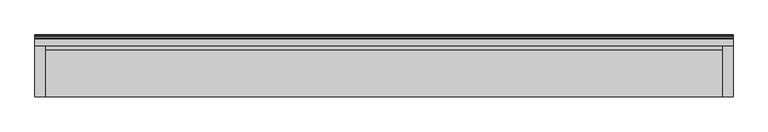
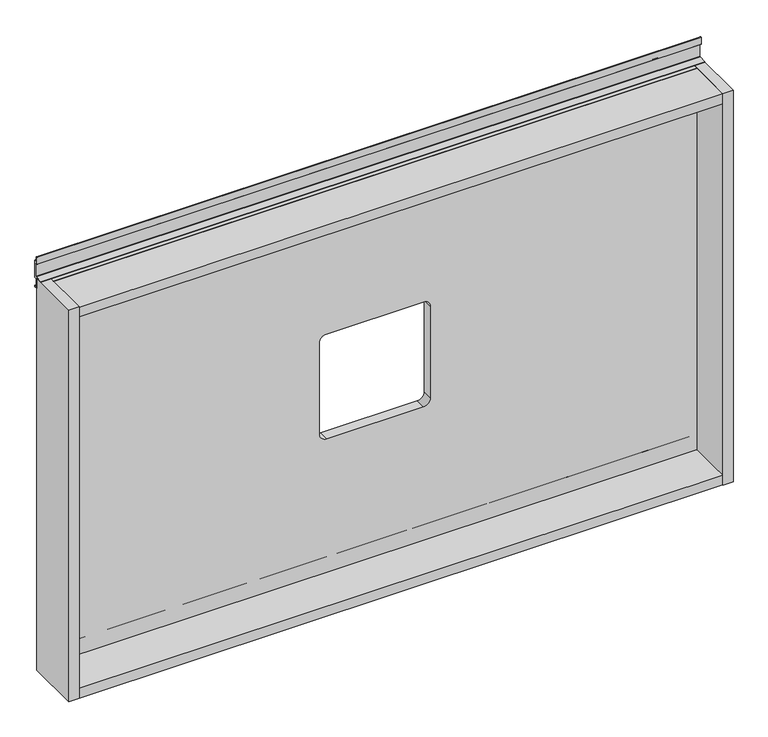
"""IFC4 building model written with IfcOpenShell, lengths in millimetres: furniture geometry, Geiger_GeigerOneCasegoods_WallTVBoxAcceptsShelfandTile : Horizontal Veneer Back 48Wx4.25Dx29.875H."""

import ifcopenshell
import ifcopenshell.guid

model = None  # the IFC model being written
_history = None  # IfcOwnerHistory: only IFC2X3 demands one
_inside = {}  # id of a spatial element -> (the spatial element, [elements in it])
_under = {}  # id of a project, library or spatial element -> (it, [spatial elements below it])
_declared = {}  # id of a project -> (the project, [libraries it declares])
_typed = {}  # id of a type object -> (the type object, [elements of that type])
_made_of = {}  # id of a material, layer set ... -> (it, [elements and type objects made of it])


def new_model(schema):
    """Start an empty IFC model of exactly this schema.

    Asked for "IFC4X3", IfcOpenShell would pick the latest addendum, in which some entities
    have other attributes; the version numbers below select the first issue.
    IFC2X3 requires an IfcOwnerHistory on every rooted entity: one is made here for all.
    """
    global model, _history
    if schema == "IFC4X3":
        model = ifcopenshell.file(schema_version=(4, 3, 0, 0))
    else:
        model = ifcopenshell.file(schema=schema)
    _inside.clear()
    _under.clear()
    _declared.clear()
    _typed.clear()
    _made_of.clear()
    _history = None
    if model.schema == "IFC2X3":
        org = make("IfcOrganization", Name="unknown")
        user = make(
            "IfcPersonAndOrganization",
            ThePerson=make("IfcPerson", FamilyName="unknown"),
            TheOrganization=org,
        )
        app = make(
            "IfcApplication",
            ApplicationDeveloper=org,
            Version="unknown",
            ApplicationFullName="unknown",
            ApplicationIdentifier="unknown",
        )
        _history = make(
            "IfcOwnerHistory",
            OwningUser=user,
            OwningApplication=app,
            ChangeAction="ADDED",
            CreationDate=0,
        )
    return model


def make(cls, **values):
    """One entity of the class cls with the attributes given. An attribute that is None is left unset."""
    return model.create_entity(
        cls, **{name: value for name, value in values.items() if value is not None}
    )


def rooted(cls, **values):
    """An entity with a GlobalId (a new one), such as an element, a storey or a relation."""
    return make(cls, GlobalId=ifcopenshell.guid.new(), OwnerHistory=_history, **values)


def si_unit(unit_type, name, prefix=None):
    """IfcSIUnit, for example si_unit("LENGTHUNIT", "METRE", prefix="MILLI")."""
    return make("IfcSIUnit", UnitType=unit_type, Prefix=prefix, Name=name)


def assignment(units):
    """IfcUnitAssignment: the units of a project."""
    return None if units is None else make("IfcUnitAssignment", Units=units)


def point(xyz):
    """IfcCartesianPoint."""
    return None if xyz is None else make("IfcCartesianPoint", Coordinates=xyz)


def direction(xyz):
    """IfcDirection."""
    return None if xyz is None else make("IfcDirection", DirectionRatios=xyz)


def frame(location, z_axis=None, x_axis=None):
    """IfcAxis2Placement3D, a coordinate frame: its origin and axes. An axis left out is left unset."""
    return make(
        "IfcAxis2Placement3D",
        Location=point(location),
        Axis=direction(z_axis),
        RefDirection=direction(x_axis),
    )


def frame_2d(location, x_axis=None):
    """IfcAxis2Placement2D, a coordinate frame in the plane: its origin and x axis."""
    return make(
        "IfcAxis2Placement2D", Location=point(location), RefDirection=direction(x_axis)
    )


def origin():
    """The frame at (0, 0, 0) with its axes left unset."""
    return frame((0.0, 0.0, 0.0))


def origin_with_axes():
    """The frame at (0, 0, 0) with the z axis (0, 0, 1) and the x axis (1, 0, 0) written out."""
    return frame((0.0, 0.0, 0.0), z_axis=(0.0, 0.0, 1.0), x_axis=(1.0, 0.0, 0.0))


def place(relative_to, where):
    """IfcLocalPlacement: puts the frame where relative to a parent placement (None: the world)."""
    return make(
        "IfcLocalPlacement", PlacementRelTo=relative_to, RelativePlacement=where
    )


def context(
    kind, dimensions, precision=None, world=None, true_north=None, identifier=None
):
    """IfcGeometricRepresentationContext, for example the 3D "Model" context."""
    return make(
        "IfcGeometricRepresentationContext",
        ContextIdentifier=identifier,
        ContextType=kind,
        CoordinateSpaceDimension=dimensions,
        Precision=precision,
        WorldCoordinateSystem=world,
        TrueNorth=true_north,
    )


def project(units=None, contexts=None):
    """IfcProject with its units and contexts."""
    return rooted(
        "IfcProject",
        Name="project",
        RepresentationContexts=contexts,
        UnitsInContext=assignment(units),
    )


def spatial(cls, under=None, at=None, **own):
    """A site, building, storey or space (cls), placed at a placement, below another one or the project."""
    s = rooted(cls, ObjectPlacement=at, **own)
    if under is not None:
        _under.setdefault(under.id(), (under, []))[1].append(s)
    return s


def polyline(points):
    """IfcPolyline through the points."""
    return make("IfcPolyline", Points=[point(p) for p in points])


def circle_curve(where, radius):
    """IfcCircle in the frame where."""
    return make("IfcCircle", Position=where, Radius=radius)


def trimmed(basis, trim1, trim2, sense, master):
    """IfcTrimmedCurve: the piece of a basis curve between two trims."""
    return make(
        "IfcTrimmedCurve",
        BasisCurve=basis,
        Trim1=trim1,
        Trim2=trim2,
        SenseAgreement=sense,
        MasterRepresentation=master,
    )


def segment(curve, same_sense, transition):
    """IfcCompositeCurveSegment."""
    return make(
        "IfcCompositeCurveSegment",
        Transition=transition,
        SameSense=same_sense,
        ParentCurve=curve,
    )


def composite_curve(segments, self_intersect=None):
    """IfcCompositeCurve: segments joined end to end."""
    return make("IfcCompositeCurve", Segments=segments, SelfIntersect=self_intersect)


def outline(outer, holes=None, kind="AREA"):
    """IfcArbitraryClosedProfileDef: a profile drawn as a closed curve; with holes, ...WithVoids."""
    if holes is None:
        return make("IfcArbitraryClosedProfileDef", ProfileType=kind, OuterCurve=outer)
    return make(
        "IfcArbitraryProfileDefWithVoids",
        ProfileType=kind,
        OuterCurve=outer,
        InnerCurves=holes,
    )


def extrude(swept, where, along, depth):
    """IfcExtrudedAreaSolid: the profile swept, set in the frame where, extruded along a direction by depth."""
    return make(
        "IfcExtrudedAreaSolid",
        SweptArea=swept,
        Position=where,
        ExtrudedDirection=direction(along),
        Depth=depth,
    )


def shape(context_of_items, identifier, shape_type, items):
    """IfcShapeRepresentation: the items that make up one representation, for example the "Body"."""
    return make(
        "IfcShapeRepresentation",
        ContextOfItems=context_of_items,
        RepresentationIdentifier=identifier,
        RepresentationType=shape_type,
        Items=items,
    )


def source(mapping_origin, context_of_items, identifier, shape_type, items):
    """IfcRepresentationMap: a shape defined once, which mapped items show again and again."""
    return make(
        "IfcRepresentationMap",
        MappingOrigin=mapping_origin,
        MappedRepresentation=shape(context_of_items, identifier, shape_type, items),
    )


def transform(
    local_origin,
    x_axis=None,
    y_axis=None,
    z_axis=None,
    scale=None,
    scale2=None,
    scale3=None,
    uniform=True,
):
    """IfcCartesianTransformationOperator3D, or its non-uniform kind. x_axis, y_axis, z_axis: its Axis1, 2, 3."""
    if uniform:
        return make(
            "IfcCartesianTransformationOperator3D",
            Axis1=direction(x_axis),
            Axis2=direction(y_axis),
            LocalOrigin=point(local_origin),
            Scale=scale,
            Axis3=direction(z_axis),
        )
    return make(
        "IfcCartesianTransformationOperator3DnonUniform",
        Axis1=direction(x_axis),
        Axis2=direction(y_axis),
        LocalOrigin=point(local_origin),
        Scale=scale,
        Axis3=direction(z_axis),
        Scale2=scale2,
        Scale3=scale3,
    )


def mapped(mapping_source, mapping_target):
    """IfcMappedItem: shows the shape of a source again, moved by a transform."""
    return make(
        "IfcMappedItem", MappingSource=mapping_source, MappingTarget=mapping_target
    )


def made_of(thing, what):
    """Note that an element or type object is made of a material, layer set ...; save() writes the relation."""
    if what is not None:
        _made_of.setdefault(what.id(), (what, []))[1].append(thing)
    return thing


def element(
    cls,
    number,
    at=None,
    inside=None,
    cuts=None,
    type_object=None,
    material=None,
    context=None,
    identifier="Body",
    shape_type=None,
    held_by="IfcProductDefinitionShape",
    body=None,
    shapes=None,
    **own,
):
    """One element of the class cls, such as IfcWall. Its Tag is "e" and its number.

    at: its placement. inside: the storey or other place that contains it. cuts: it is an
    opening in that element (IfcRelVoidsElement). A single representation is given by context,
    identifier, shape_type and body (its items); several are given by shapes. held_by: the class
    of the entity that holds the representations. save() writes the other relations.
    """
    e = rooted(cls, Tag="e%d" % number, ObjectPlacement=at, **own)
    if body is not None:
        shapes = [shape(context, identifier, shape_type, body)]
    if shapes is not None:
        e.Representation = make(held_by, Representations=shapes)
    if inside is not None:
        _inside.setdefault(inside.id(), (inside, []))[1].append(e)
    if cuts is not None:
        rooted(
            "IfcRelVoidsElement", RelatingBuildingElement=cuts, RelatedOpeningElement=e
        )
    if type_object is not None:
        _typed.setdefault(type_object.id(), (type_object, []))[1].append(e)
    return made_of(e, material)


def aggregate(whole, parts):
    """IfcRelAggregates: a whole, such as a stair, and the parts it consists of."""
    return rooted("IfcRelAggregates", RelatingObject=whole, RelatedObjects=parts)


def save(model, path):
    """Write the relations noted so far, then the file.

    IfcRelAggregates (storeys below a building ...), IfcRelContainedInSpatialStructure (elements
    in a storey), IfcRelDefinesByType, IfcRelAssociatesMaterial and IfcRelDeclares: one each for
    every whole, place, type object, material and project.
    """
    for whole, parts in _under.values():
        aggregate(whole, parts)
    for where, things in _inside.values():
        rooted(
            "IfcRelContainedInSpatialStructure",
            RelatedElements=things,
            RelatingStructure=where,
        )
    for kind, things in _typed.values():
        rooted("IfcRelDefinesByType", RelatedObjects=things, RelatingType=kind)
    for what, things in _made_of.values():
        rooted("IfcRelAssociatesMaterial", RelatedObjects=things, RelatingMaterial=what)
    for by, libraries in _declared.values():
        rooted("IfcRelDeclares", RelatingContext=by, RelatedDefinitions=libraries)
    model.write(path)


def furniture_aca357fb(model_context):
    return source(origin(), model_context, "Body", "SweptSolid", [
        extrude(outline(polyline([(759.5, 1200.2), (759.5, 19.0), (0.5, 19.0), (0.5, 1200.2), (759.5, 1200.2)]), holes=[composite_curve([segment(trimmed(circle_curve(frame_2d((468.8, 698.4)), 12.7), [point((481.5, 698.4))], [point((468.8, 711.1))], True, "CARTESIAN"), True, "CONTINUOUS"), segment(polyline([(468.8, 711.1), (291.2, 711.1)]), True, "CONTINUOUS"), segment(trimmed(circle_curve(frame_2d((291.2, 698.4)), 12.7), [point((291.2, 711.1))], [point((278.5, 698.4))], True, "CARTESIAN"), True, "CONTINUOUS"), segment(polyline([(278.5, 698.4), (278.5, 520.8)]), True, "CONTINUOUS"), segment(trimmed(circle_curve(frame_2d((291.2, 520.8)), 12.7), [point((278.5, 520.8))], [point((291.2, 508.1))], True, "CARTESIAN"), True, "CONTINUOUS"), segment(polyline([(291.2, 508.1), (468.8, 508.1)]), True, "CONTINUOUS"), segment(trimmed(circle_curve(frame_2d((468.8, 520.8)), 12.7), [point((468.8, 508.1))], [point((481.5, 520.8))], True, "CARTESIAN"), True, "CONTINUOUS"), segment(polyline([(481.5, 520.8), (481.5, 698.4)]), True, "CONTINUOUS")], self_intersect=False)]), frame((0.0, -25.9008, 0.0), z_axis=(0.0, 1.0, 0.0), x_axis=(0.0, 0.0, 1.0)), (0.0, 0.0, 1.0), 19.0),
        extrude(outline(polyline([(1200.2, -107.9008), (19.0, -107.9008), (19.0, -6.9008), (1200.2, -6.9008), (1200.2, -107.9008)])), frame((0.0, 0.0, 740.5), z_axis=(0.0, 0.0, 1.0), x_axis=(1.0, 0.0, 0.0)), (0.0, 0.0, 1.0), 19.0),
        extrude(outline(composite_curve([segment(polyline([(-2.8956, 697.7664), (-2.8956, 704.7006), (-3.7084, 705.488), (-5.6134, 705.488), (-6.4008, 706.3008), (-6.4008, 738.0), (-5.1054, 738.0), (-3.5052, 736.3998), (-3.5052, 711.8126), (-2.6924, 710.9998), (-0.8128, 710.9998), (0.0, 710.2124), (0.0, 696.7854245)]), True, "CONTINUOUS"), segment(trimmed(circle_curve(frame_2d((-0.7930634, 696.7854245)), 0.7930634), [point((0.0, 696.7854245))], [point((-1.3538439, 696.2246439))], False, "CARTESIAN"), True, "CONTINUOUS"), segment(polyline([(-1.3538439, 696.2246439), (-2.8956, 697.7664)]), True, "CONTINUOUS")], self_intersect=False)), frame((19.5, 0.0, 0.0), z_axis=(1.0, 0.0, 0.0), x_axis=(0.0, 1.0, 0.0)), (0.0, 0.0, 1.0), 1180.2),
        extrude(outline(composite_curve([segment(polyline([(-3.5052, 44.8326), (-2.6924, 44.0198), (-0.8128, 44.0198), (0.0, 43.2324), (0.0, 29.7839962)]), True, "CONTINUOUS"), segment(trimmed(circle_curve(frame_2d((-0.7841875, 29.7839962)), 0.7841875), [point((0.0, 29.7839962))], [point((-1.3386919, 29.2294919))], False, "CARTESIAN"), True, "CONTINUOUS"), segment(polyline([(-1.3386919, 29.2294919), (-2.8956, 30.7864), (-2.8956, 37.7206), (-3.7084, 38.508), (-5.6134, 38.508), (-6.4008, 39.3208), (-6.4008, 71.02), (-5.1054, 71.02), (-3.5052, 69.4198), (-3.5052, 44.8326)]), True, "CONTINUOUS")], self_intersect=False)), frame((19.5, 0.0, 0.0), z_axis=(1.0, 0.0, 0.0), x_axis=(0.0, 1.0, 0.0)), (0.0, 0.0, 1.0), 1180.2),
        extrude(outline(polyline([(1200.2, -107.9008), (19.0, -107.9008), (19.0, -25.9008), (1200.2, -25.9008), (1200.2, -107.9008)])), frame((0.0, 0.0, 0.5), z_axis=(0.0, 0.0, 1.0), x_axis=(1.0, 0.0, 0.0)), (0.0, 0.0, 1.0), 19.0),
        extrude(outline(polyline([(19.0, -108.4008), (0.0, -108.4008), (0.0, -6.4008), (19.0, -6.4008), (19.0, -108.4008)])), origin_with_axes(), (0.0, 0.0, 1.0), 760.0),
        extrude(outline(polyline([(1219.2, -108.4008), (1200.2, -108.4008), (1200.2, -6.4008), (1219.2, -6.4008), (1219.2, -108.4008)])), origin_with_axes(), (0.0, 0.0, 1.0), 760.0),
        extrude(outline(composite_curve([segment(polyline([(-3.5052, 800.2336), (-3.5052, 793.2994), (-2.7178, 792.512), (-0.8128, 792.512), (0.0, 791.6992), (0.0, 758.3998), (-2.6924, 758.3998), (-3.5052, 757.6124), (-3.5052, 743.8964), (-2.6924, 743.109), (0.0, 743.109), (0.0, 740.188), (-5.6134, 740.188), (-6.4008, 741.0008), (-6.4008, 760.0), (-18.9992, 760.0), (-18.9992, 761.6002), (-3.7084, 761.6002), (-2.8956, 762.3876), (-2.8956, 786.2128), (-3.7084, 787.0002), (-5.6134, 787.0002), (-6.4008, 787.813), (-6.4008, 801.2169166)]), True, "CONTINUOUS"), segment(trimmed(circle_curve(frame_2d((-5.6087063, 801.2169166)), 0.7920937), [point((-6.4008, 801.2169166))], [point((-5.0486114, 801.7770114))], False, "CARTESIAN"), True, "CONTINUOUS"), segment(polyline([(-5.0486114, 801.7770114), (-3.5052, 800.2336)]), True, "CONTINUOUS")], self_intersect=False)), frame((0.0, 0.0, 0.0), z_axis=(1.0, 0.0, 0.0), x_axis=(0.0, 1.0, 0.0)), (0.0, 0.0, 1.0), 1219.2),
    ])


if __name__ == "__main__":
    model = new_model("IFC4")
    model_context = context("Model", 3, world=origin())
    ifc_project = project(units=[si_unit("LENGTHUNIT", "METRE", prefix="MILLI")], contexts=[model_context])
    site = spatial("IfcSite", under=ifc_project)
    building = spatial("IfcBuilding", under=site)
    placement = place(None, origin())
    furniture_shape = furniture_aca357fb(model_context)
    element("IfcFurniture", 1, ObjectType="Geiger_GeigerOneCasegoods_WallTVBoxAcceptsShelfandTile : Horizontal Veneer Back 48Wx4.25Dx29.875H", at=placement, inside=building, context=model_context, shape_type="MappedRepresentation", body=[
        mapped(furniture_shape, transform((0.0, 0.0, 0.0), x_axis=(1.0, 0.0, 0.0), y_axis=(0.0, 1.0, 0.0), z_axis=(0.0, 0.0, 1.0))),
    ])
    save(model, "model.ifc")
